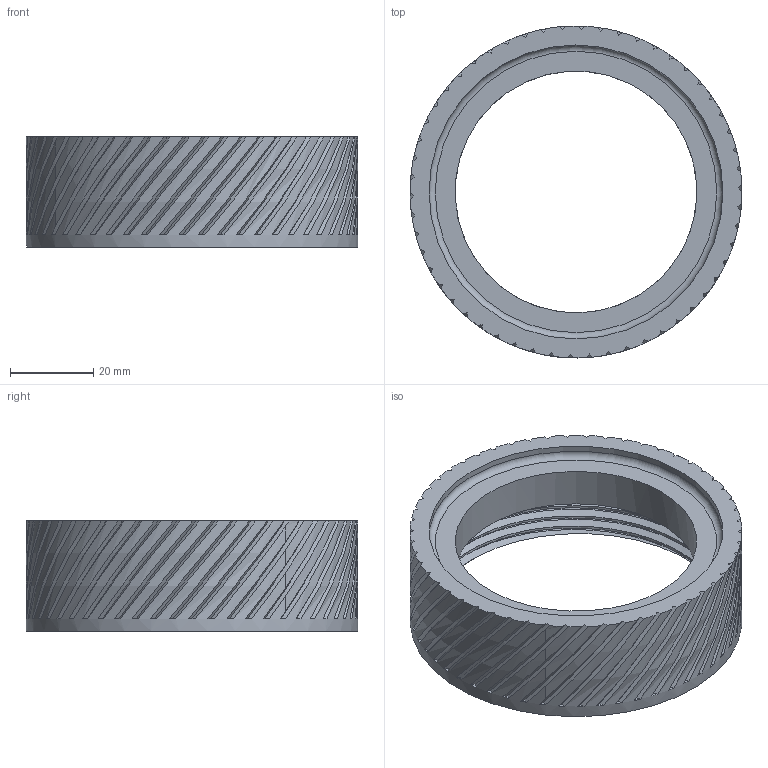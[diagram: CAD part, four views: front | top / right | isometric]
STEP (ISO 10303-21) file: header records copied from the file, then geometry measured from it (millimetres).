
FILE_DESCRIPTION(/* description */ ('STEP AP242','CAx-IF Rec.Pracs.---Representation and Presentation of Product Manufacturing Information (PMI)---4.0---2014-10-13','CAx-IF Rec.Pracs.---3D Tessellated Geometry---0.4---2014-09-14','2;1'),/* implementation_level */ '2;1');
FILE_NAME(/* name */ '6469228bcac4670533c1fbd4',/* time_stamp */ '2023-05-20T19:42:03Z',/* author */ (''),/* organization */ (''),/* preprocessor_version */ 'ST-DEVELOPER v19.4',/* originating_system */ ' ',/* authorisation */ ' ');
FILE_SCHEMA (('AP242_MANAGED_MODEL_BASED_3D_ENGINEERING_MIM_LF { 1 0 10303 442 1 1 4 }'));
Length unit declared in the file: metre
Products named in the file (1): Base 21mm NoMagnet NoLug
Bounding box: 79.6 x 79.6 x 26.4 mm (x, y, z)
Volume: 39427.1 mm3; surface area: 18642 mm2
Topology: 1 solids, 1 shells, 216 faces, 634 edges, 423 vertices
Faces by surface type: bspline 130, plane 74, cylinder 8, cone 3, torus 1
Full cylindrical faces by diameter (mm): 58 x1, 70.5 x1, 79.6 x1
Entity records: 13630 total; most frequent: CARTESIAN_POINT 9465, ORIENTED_EDGE 1228, EDGE_CURVE 614, DIRECTION 437, VERTEX_POINT 412, B_SPLINE_CURVE_WITH_KNOTS 299, EDGE_LOOP 222, FACE_BOUND 222
